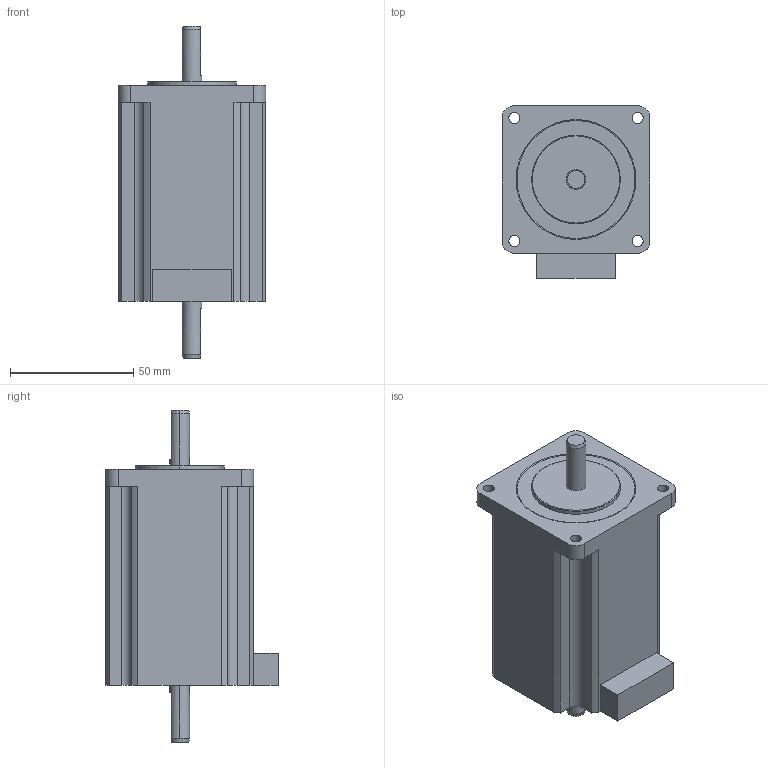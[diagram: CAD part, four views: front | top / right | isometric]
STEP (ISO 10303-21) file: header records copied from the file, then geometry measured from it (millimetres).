
FILE_DESCRIPTION (( 'STEP AP203' ), '1' );
FILE_NAME ('PMSA-U60D5D_3D.STEP', '2017-01-31T07:51:52', ( 'SKJ01072' ), ( '' ), 'SwSTEP 2.0', 'SolidWorks 2014', '' );
FILE_SCHEMA (( 'CONFIG_CONTROL_DESIGN' ));
Length unit declared in the file: millimetre
Products named in the file (1): PMSA-U60D5D_3D
Bounding box: 60 x 70 x 134.8 mm (x, y, z)
Volume: 287561.5 mm3; surface area: 29375.9 mm2
Topology: 1 solids, 1 shells, 73 faces, 198 edges, 131 vertices
Faces by surface type: plane 34, cylinder 30, cone 9
Entity records: 2452 total; most frequent: CARTESIAN_POINT 451, DIRECTION 417, ORIENTED_EDGE 396, EDGE_CURVE 198, AXIS2_PLACEMENT_3D 153, VERTEX_POINT 131, VECTOR 111, LINE 111
